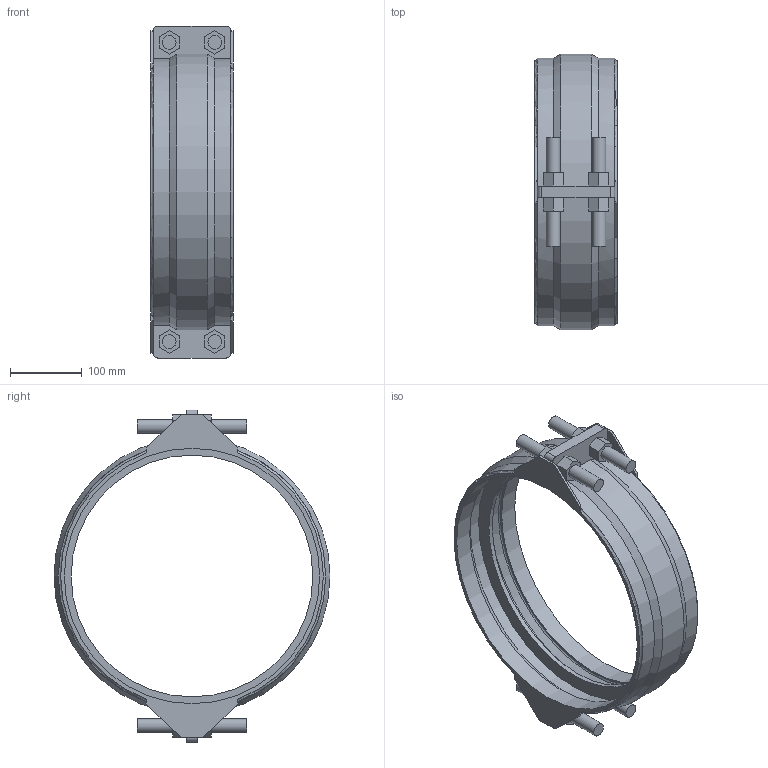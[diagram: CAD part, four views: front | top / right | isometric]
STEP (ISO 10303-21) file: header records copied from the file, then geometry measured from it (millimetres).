
FILE_DESCRIPTION(/* description */ ('VIC SS RESTRAINED COUPLING STYLE 234S (FLEX) (BRS)','CAx-IF Rec.Pracs.---Representation and Presentation of Product Manufacturing Information (PMI)---4.0---2014-10-13'),/* implementation_level */ '2;1');
FILE_NAME(/* name */ 'C:\Users\kkamble\AppData\Roaming\Autodesk\ApplicationPlugins\Back Up\Victaulic_VBSP_Coupling Flexible Restrained_Style 234S (BRS)\Victaulic_VBSP_Coupling Flexible Restrained_Style 234S (BRS)_150psi_14 (350).stp',/* time_stamp */ '2020-09-22T18:40:46+05:00',/* author */ ('Vjadhav'),/* organization */ ('Victaulic'),/* preprocessor_version */ 'ST-DEVELOPER v17.2',/* originating_system */ 'Autodesk Inventor 2019',/* authorisation */ '');
FILE_SCHEMA (('TECHNICAL_DATA_PACKAGING','AP242_MANAGED_MODEL_BASED_3D_ENGINEERING_MIM_LF { 1 0 10303 442 1 1 4 }'));
Length unit declared in the file: inch
Products named in the file (1): Style_234S_Type_2_150psi-14.0
Bounding box: 114.3 x 384.21 x 462.28 mm (x, y, z)
Volume: 1300349.4 mm3; surface area: 424738.7 mm2
Topology: 1 solids, 1 shells, 155 faces, 393 edges, 260 vertices
Faces by surface type: plane 104, cylinder 39, torus 6, cone 6
Full cylindrical faces by diameter (mm): 19.05 x8, 336.55 x1, 355.6 x2, 377.065 x2
Entity records: 5026 total; most frequent: CARTESIAN_POINT 914, DIRECTION 825, ORIENTED_EDGE 786, EDGE_CURVE 393, AXIS2_PLACEMENT_3D 279, LINE 267, VECTOR 267, VERTEX_POINT 260
